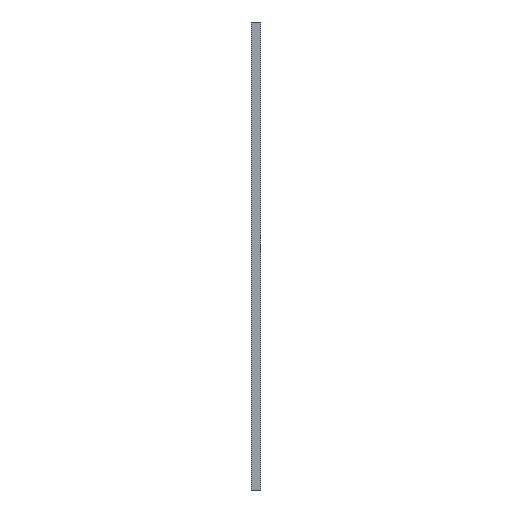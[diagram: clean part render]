
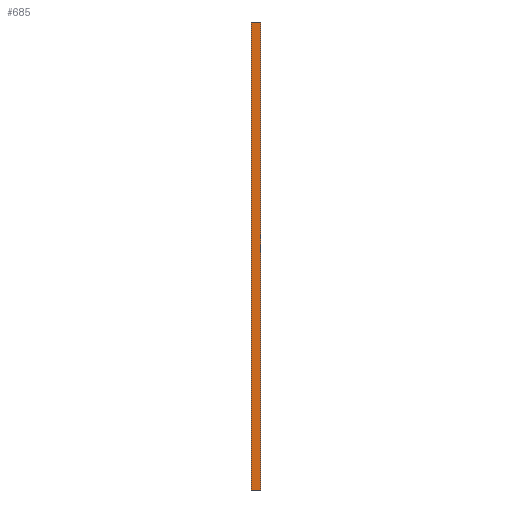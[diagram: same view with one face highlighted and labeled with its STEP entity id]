
A CAD part, left-side view. The second image highlights one B-rep face of the part: STEP entity #685.
In plain terms, the highlighted planar face has unit normal (-1, 0, 0).
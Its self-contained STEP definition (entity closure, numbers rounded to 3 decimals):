
#18 = CARTESIAN_POINT ( 'NONE',  ( -628., 0., -794. ) ) ;
#23 = LINE ( 'NONE', #542, #695 ) ;
#25 = ORIENTED_EDGE ( 'NONE', *, *, #380, .T. ) ;
#46 = CARTESIAN_POINT ( 'NONE',  ( -628., -17., -794. ) ) ;
#83 = CARTESIAN_POINT ( 'NONE',  ( -628., -17., 40. ) ) ;
#129 = DIRECTION ( 'NONE',  ( 0., 1., 0. ) ) ;
#130 = CARTESIAN_POINT ( 'NONE',  ( -628., 0., 40. ) ) ;
#256 = ORIENTED_EDGE ( 'NONE', *, *, #381, .F. ) ;
#260 = VECTOR ( 'NONE', #129, 1000. ) ;
#265 = EDGE_LOOP ( 'NONE', ( #1005, #256, #25, #510 ) ) ;
#380 = EDGE_CURVE ( 'NONE', #527, #1037, #897, .T. ) ;
#381 = EDGE_CURVE ( 'NONE', #527, #1012, #23, .T. ) ;
#420 = EDGE_CURVE ( 'NONE', #1012, #472, #794, .T. ) ;
#472 = VERTEX_POINT ( 'NONE', #130 ) ;
#474 = LINE ( 'NONE', #670, #260 ) ;
#510 = ORIENTED_EDGE ( 'NONE', *, *, #686, .T. ) ;
#527 = VERTEX_POINT ( 'NONE', #1094 ) ;
#542 = CARTESIAN_POINT ( 'NONE',  ( -628., -17., -794. ) ) ;
#549 = CARTESIAN_POINT ( 'NONE',  ( -628., 0., -794. ) ) ;
#588 = FACE_OUTER_BOUND ( 'NONE', #265, .T. ) ;
#622 = CARTESIAN_POINT ( 'NONE',  ( -628., -17., -794. ) ) ;
#665 = DIRECTION ( 'NONE',  ( -1., 0., 0. ) ) ;
#670 = CARTESIAN_POINT ( 'NONE',  ( -628., -17., 40. ) ) ;
#685 = ADVANCED_FACE ( 'NONE', ( #588 ), #1004, .T. ) ;
#686 = EDGE_CURVE ( 'NONE', #1037, #472, #474, .T. ) ;
#695 = VECTOR ( 'NONE', #967, 1000. ) ;
#780 = AXIS2_PLACEMENT_3D ( 'NONE', #46, #665, #843 ) ;
#794 = LINE ( 'NONE', #18, #1064 ) ;
#843 = DIRECTION ( 'NONE',  ( 0., 0., 1. ) ) ;
#897 = LINE ( 'NONE', #622, #1100 ) ;
#967 = DIRECTION ( 'NONE',  ( 0., 1., 0. ) ) ;
#1004 = PLANE ( 'NONE',  #780 ) ;
#1005 = ORIENTED_EDGE ( 'NONE', *, *, #420, .F. ) ;
#1012 = VERTEX_POINT ( 'NONE', #549 ) ;
#1037 = VERTEX_POINT ( 'NONE', #83 ) ;
#1049 = DIRECTION ( 'NONE',  ( 0., 0., 1. ) ) ;
#1064 = VECTOR ( 'NONE', #1068, 1000. ) ;
#1068 = DIRECTION ( 'NONE',  ( 0., 0., 1. ) ) ;
#1094 = CARTESIAN_POINT ( 'NONE',  ( -628., -17., -794. ) ) ;
#1100 = VECTOR ( 'NONE', #1049, 1000. ) ;
